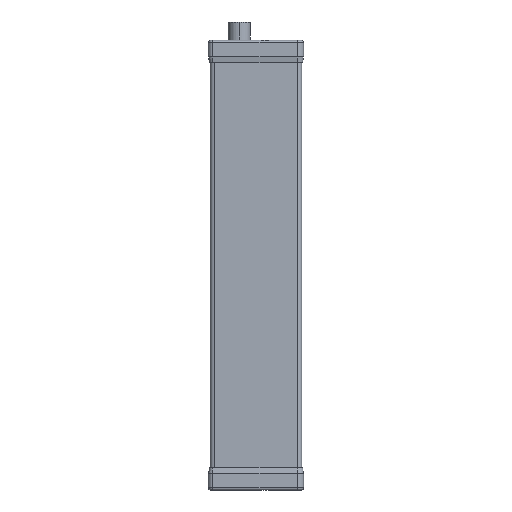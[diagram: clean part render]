
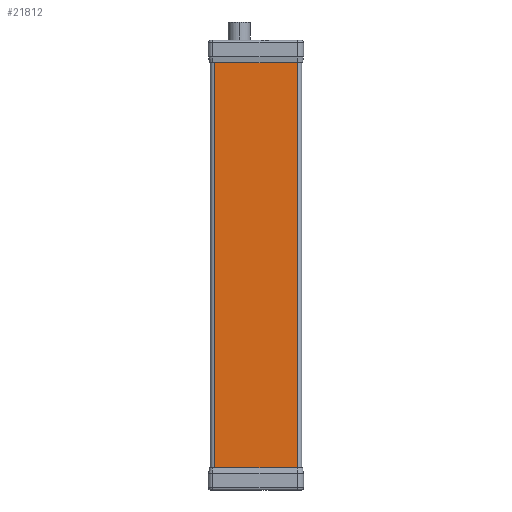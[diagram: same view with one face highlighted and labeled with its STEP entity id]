
A CAD part, left-side view. The second image highlights one B-rep face of the part: STEP entity #21812.
In plain terms, the highlighted planar face has unit normal (-1, 0, 0).
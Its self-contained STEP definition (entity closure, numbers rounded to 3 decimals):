
#4669 = FACE_OUTER_BOUND ( 'NONE', #21813, .T. ) ;
#4697 = CARTESIAN_POINT ( 'NONE',  ( -21.191, -17.562, 84. ) ) ;
#4698 = DIRECTION ( 'NONE',  ( 0., 0., 1. ) ) ;
#4699 = VECTOR ( 'NONE', #4698, 1000. ) ;
#4700 = CARTESIAN_POINT ( 'NONE',  ( -21.191, -17.562, 84. ) ) ;
#4701 = LINE ( 'NONE', #4700, #4699 ) ;
#4702 = CARTESIAN_POINT ( 'NONE',  ( -21.191, 23.438, -120. ) ) ;
#4703 = CARTESIAN_POINT ( 'NONE',  ( -21.191, -17.562, -120. ) ) ;
#4704 = DIRECTION ( 'NONE',  ( 0., 1., 0. ) ) ;
#4705 = VECTOR ( 'NONE', #4704, 1000. ) ;
#4706 = CARTESIAN_POINT ( 'NONE',  ( -21.191, -50.274, -120. ) ) ;
#4707 = LINE ( 'NONE', #4706, #4705 ) ;
#4708 = DIRECTION ( 'NONE',  ( 0., -1., 0. ) ) ;
#4709 = DIRECTION ( 'NONE',  ( -1., 0., 0. ) ) ;
#4710 = CARTESIAN_POINT ( 'NONE',  ( -21.191, -50.274, 84. ) ) ;
#4711 = AXIS2_PLACEMENT_3D ( 'NONE', #4710, #4709, #4708 ) ;
#4712 = PLANE ( 'NONE',  #4711 ) ;
#18711 = DIRECTION ( 'NONE',  ( 0., 0., -1. ) ) ;
#18712 = VECTOR ( 'NONE', #18711, 1000. ) ;
#18713 = CARTESIAN_POINT ( 'NONE',  ( -21.191, 23.438, 84. ) ) ;
#18715 = LINE ( 'NONE', #18713, #18712 ) ;
#18716 = DIRECTION ( 'NONE',  ( 0., 1., 0. ) ) ;
#18717 = VECTOR ( 'NONE', #18716, 1000. ) ;
#18718 = CARTESIAN_POINT ( 'NONE',  ( -21.191, -50.274, 84. ) ) ;
#18719 = LINE ( 'NONE', #18718, #18717 ) ;
#18746 = CARTESIAN_POINT ( 'NONE',  ( -21.191, 23.438, 84. ) ) ;
#21812 = ADVANCED_FACE ( 'NONE', ( #4669 ), #4712, .T. ) ;
#21813 = EDGE_LOOP ( 'NONE', ( #21814, #21818, #27773, #30667 ) ) ;
#21814 = ORIENTED_EDGE ( 'NONE', *, *, #21815, .F. ) ;
#21815 = EDGE_CURVE ( 'NONE', #21816, #21817, #4707, .T. ) ;
#21816 = VERTEX_POINT ( 'NONE', #4703 ) ;
#21817 = VERTEX_POINT ( 'NONE', #4702 ) ;
#21818 = ORIENTED_EDGE ( 'NONE', *, *, #21819, .T. ) ;
#21819 = EDGE_CURVE ( 'NONE', #21816, #21820, #4701, .T. ) ;
#21820 = VERTEX_POINT ( 'NONE', #4697 ) ;
#27773 = ORIENTED_EDGE ( 'NONE', *, *, #30668, .T. ) ;
#30667 = ORIENTED_EDGE ( 'NONE', *, *, #30669, .T. ) ;
#30668 = EDGE_CURVE ( 'NONE', #21820, #30674, #18719, .T. ) ;
#30669 = EDGE_CURVE ( 'NONE', #30674, #21817, #18715, .T. ) ;
#30674 = VERTEX_POINT ( 'NONE', #18746 ) ;
